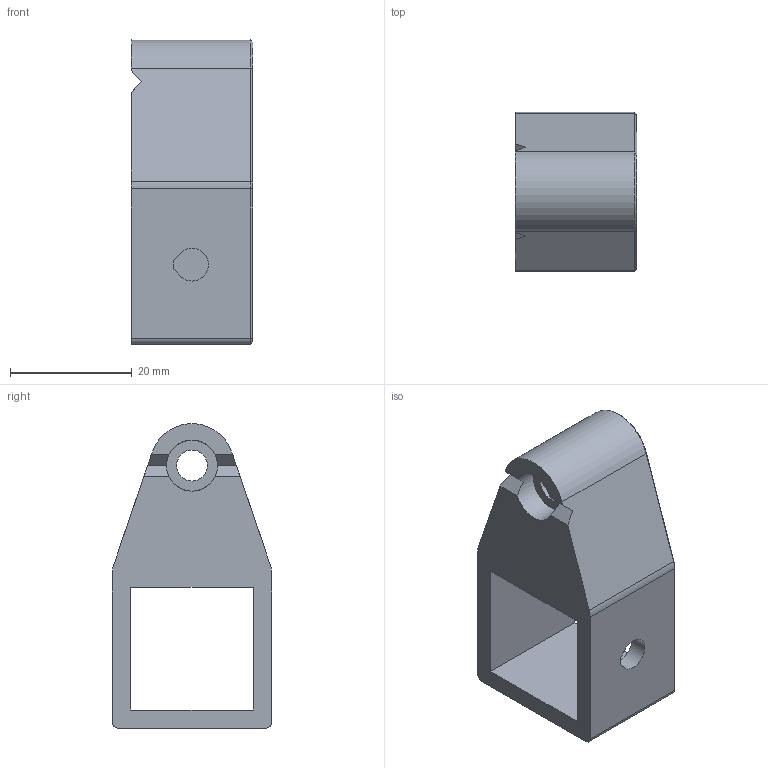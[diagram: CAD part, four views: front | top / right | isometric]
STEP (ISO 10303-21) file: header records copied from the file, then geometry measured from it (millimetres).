
FILE_DESCRIPTION(('FreeCAD Model'),'2;1');
FILE_NAME('Open CASCADE Shape Model','2023-11-11T09:58:50',(''),(''), 'Open CASCADE STEP processor 7.6','FreeCAD','Unknown');
FILE_SCHEMA(('AUTOMOTIVE_DESIGN { 1 0 10303 214 1 1 1 1 }'));
Length unit declared in the file: millimetre
Products named in the file (1): clamp_post
Bounding box: 20 x 26.2 x 50.08 mm (x, y, z)
Volume: 13341.8 mm3; surface area: 5994.2 mm2
Topology: 1 solids, 1 shells, 43 faces, 107 edges, 66 vertices
Faces by surface type: plane 29, cylinder 8, cone 6
Full cylindrical faces by diameter (mm): 5.1 x1, 8.4 x1
Entity records: 2721 total; most frequent: CARTESIAN_POINT 499, DIRECTION 424, LINE 269, VECTOR 269, ORIENTED_EDGE 214, PCURVE 214, DEFINITIONAL_REPRESENTATION 214, EDGE_CURVE 107
